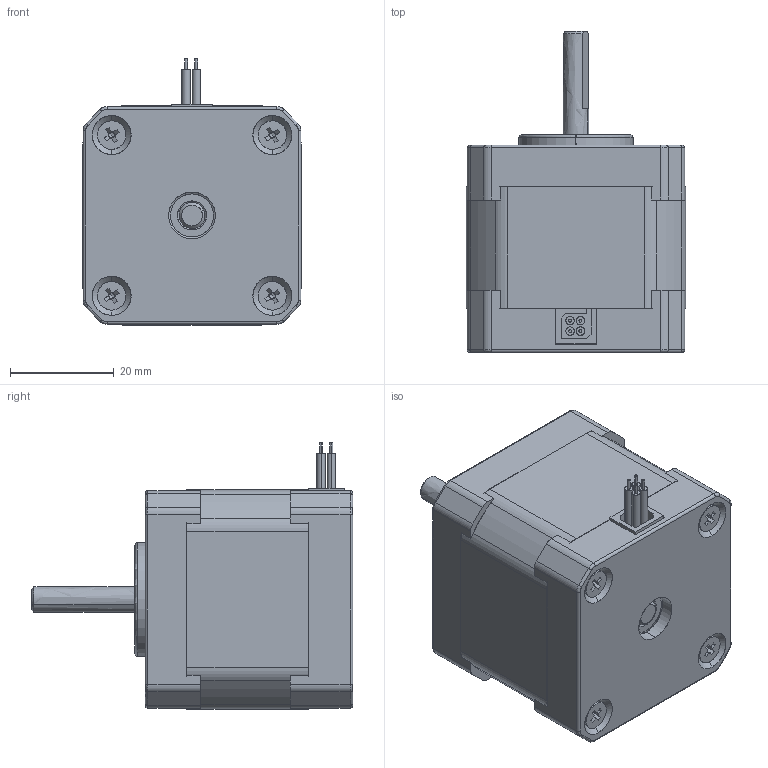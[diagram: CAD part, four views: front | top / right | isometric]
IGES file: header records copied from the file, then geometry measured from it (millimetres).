
Start section: SolidWorks IGES file using analytic representation for surfaces
Global section: file name: I:\3D_PRINTER\My_Projects\Nema_17\17HM15-0904S\17HM15-0904S.IGS; native system: SolidWorks 2013; preprocessor: SolidWorks 2013; author: Admin; date: 170306.130327; units: millimetre
Bounding box: 42.3 x 62 x 51.35 mm (x, y, z)
Surface area: 24500.3 mm2 (no closed solid volume)
Topology: 0 solids, 0 shells, 439 faces, 3446 edges, 3438 vertices
Faces by surface type: revolution 222, bspline 217
